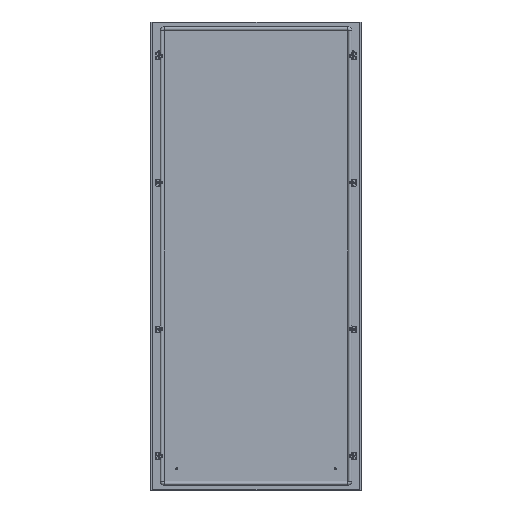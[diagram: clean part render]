
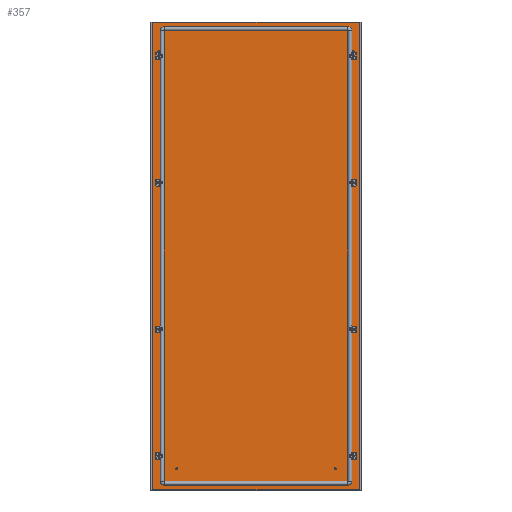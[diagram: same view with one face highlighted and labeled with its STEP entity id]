
A CAD part, top view. The second image highlights one B-rep face of the part: STEP entity #357.
In plain terms, the highlighted planar face has unit normal (0, 0, 1).
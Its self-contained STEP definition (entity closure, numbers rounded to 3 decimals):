
#357 = ADVANCED_FACE('',(#358,#456,#467,#478,#498,#518,#529,#540,#560),
  #580,.F.);
#358 = FACE_BOUND('',#359,.T.);
#359 = EDGE_LOOP('',(#360,#370,#378,#386,#394,#402,#410,#418,#426,#434,
    #442,#450));
#360 = ORIENTED_EDGE('',*,*,#361,.F.);
#361 = EDGE_CURVE('',#362,#364,#366,.T.);
#362 = VERTEX_POINT('',#363);
#363 = CARTESIAN_POINT('',(-395.5,877.5,0.));
#364 = VERTEX_POINT('',#365);
#365 = CARTESIAN_POINT('',(-395.3,877.5,0.));
#366 = LINE('',#367,#368);
#367 = CARTESIAN_POINT('',(0.,877.5,0.)
  );
#368 = VECTOR('',#369,1.);
#369 = DIRECTION('',(1.,0.,0.));
#370 = ORIENTED_EDGE('',*,*,#371,.T.);
#371 = EDGE_CURVE('',#362,#372,#374,.T.);
#372 = VERTEX_POINT('',#373);
#373 = CARTESIAN_POINT('',(-395.5,-877.5,0.));
#374 = LINE('',#375,#376);
#375 = CARTESIAN_POINT('',(-395.5,0.,0.
    ));
#376 = VECTOR('',#377,1.);
#377 = DIRECTION('',(0.,-1.,0.));
#378 = ORIENTED_EDGE('',*,*,#379,.T.);
#379 = EDGE_CURVE('',#372,#380,#382,.T.);
#380 = VERTEX_POINT('',#381);
#381 = CARTESIAN_POINT('',(-395.3,-877.5,0.));
#382 = LINE('',#383,#384);
#383 = CARTESIAN_POINT('',(0.,-877.5,
    0.));
#384 = VECTOR('',#385,1.);
#385 = DIRECTION('',(1.,-0.,-0.));
#386 = ORIENTED_EDGE('',*,*,#387,.F.);
#387 = EDGE_CURVE('',#388,#380,#390,.T.);
#388 = VERTEX_POINT('',#389);
#389 = CARTESIAN_POINT('',(-395.3,-876.,0.));
#390 = LINE('',#391,#392);
#391 = CARTESIAN_POINT('',(-395.3,0.,0.
    ));
#392 = VECTOR('',#393,1.);
#393 = DIRECTION('',(0.,-1.,0.));
#394 = ORIENTED_EDGE('',*,*,#395,.T.);
#395 = EDGE_CURVE('',#388,#396,#398,.T.);
#396 = VERTEX_POINT('',#397);
#397 = CARTESIAN_POINT('',(395.3,-876.,0.));
#398 = LINE('',#399,#400);
#399 = CARTESIAN_POINT('',(0.,-876.,0.)
  );
#400 = VECTOR('',#401,1.);
#401 = DIRECTION('',(1.,-0.,-0.));
#402 = ORIENTED_EDGE('',*,*,#403,.T.);
#403 = EDGE_CURVE('',#396,#404,#406,.T.);
#404 = VERTEX_POINT('',#405);
#405 = CARTESIAN_POINT('',(395.3,-877.5,0.));
#406 = LINE('',#407,#408);
#407 = CARTESIAN_POINT('',(395.3,-876.,0.));
#408 = VECTOR('',#409,1.);
#409 = DIRECTION('',(0.,-1.,0.));
#410 = ORIENTED_EDGE('',*,*,#411,.F.);
#411 = EDGE_CURVE('',#412,#404,#414,.T.);
#412 = VERTEX_POINT('',#413);
#413 = CARTESIAN_POINT('',(395.5,-877.5,0.));
#414 = LINE('',#415,#416);
#415 = CARTESIAN_POINT('',(0.,-877.5,0.
    ));
#416 = VECTOR('',#417,1.);
#417 = DIRECTION('',(-1.,0.,0.));
#418 = ORIENTED_EDGE('',*,*,#419,.T.);
#419 = EDGE_CURVE('',#412,#420,#422,.T.);
#420 = VERTEX_POINT('',#421);
#421 = CARTESIAN_POINT('',(395.5,877.5,0.));
#422 = LINE('',#423,#424);
#423 = CARTESIAN_POINT('',(395.5,0.,0.));
#424 = VECTOR('',#425,1.);
#425 = DIRECTION('',(0.,1.,0.));
#426 = ORIENTED_EDGE('',*,*,#427,.T.);
#427 = EDGE_CURVE('',#420,#428,#430,.T.);
#428 = VERTEX_POINT('',#429);
#429 = CARTESIAN_POINT('',(395.3,877.5,0.));
#430 = LINE('',#431,#432);
#431 = CARTESIAN_POINT('',(0.,877.5,0.)
  );
#432 = VECTOR('',#433,1.);
#433 = DIRECTION('',(-1.,-0.,-0.));
#434 = ORIENTED_EDGE('',*,*,#435,.F.);
#435 = EDGE_CURVE('',#436,#428,#438,.T.);
#436 = VERTEX_POINT('',#437);
#437 = CARTESIAN_POINT('',(395.3,876.,0.));
#438 = LINE('',#439,#440);
#439 = CARTESIAN_POINT('',(395.3,0.,
    0.));
#440 = VECTOR('',#441,1.);
#441 = DIRECTION('',(0.,1.,0.));
#442 = ORIENTED_EDGE('',*,*,#443,.T.);
#443 = EDGE_CURVE('',#436,#444,#446,.T.);
#444 = VERTEX_POINT('',#445);
#445 = CARTESIAN_POINT('',(-395.3,876.,0.));
#446 = LINE('',#447,#448);
#447 = CARTESIAN_POINT('',(0.,876.,0.)
  );
#448 = VECTOR('',#449,1.);
#449 = DIRECTION('',(-1.,-0.,-0.));
#450 = ORIENTED_EDGE('',*,*,#451,.T.);
#451 = EDGE_CURVE('',#444,#364,#452,.T.);
#452 = LINE('',#453,#454);
#453 = CARTESIAN_POINT('',(-395.3,876.,0.));
#454 = VECTOR('',#455,1.);
#455 = DIRECTION('',(0.,1.,0.));
#456 = FACE_BOUND('',#457,.T.);
#457 = EDGE_LOOP('',(#458));
#458 = ORIENTED_EDGE('',*,*,#459,.T.);
#459 = EDGE_CURVE('',#460,#460,#462,.T.);
#460 = VERTEX_POINT('',#461);
#461 = CARTESIAN_POINT('',(-364.5,-270.25,0.));
#462 = CIRCLE('',#463,4.75);
#463 = AXIS2_PLACEMENT_3D('',#464,#465,#466);
#464 = CARTESIAN_POINT('',(-364.5,-275.,0.));
#465 = DIRECTION('',(0.,0.,-1.));
#466 = DIRECTION('',(0.,1.,0.));
#467 = FACE_BOUND('',#468,.T.);
#468 = EDGE_LOOP('',(#469));
#469 = ORIENTED_EDGE('',*,*,#470,.T.);
#470 = EDGE_CURVE('',#471,#471,#473,.T.);
#471 = VERTEX_POINT('',#472);
#472 = CARTESIAN_POINT('',(364.5,-279.75,0.));
#473 = CIRCLE('',#474,4.75);
#474 = AXIS2_PLACEMENT_3D('',#475,#476,#477);
#475 = CARTESIAN_POINT('',(364.5,-275.,0.));
#476 = DIRECTION('',(-0.,0.,-1.));
#477 = DIRECTION('',(0.,-1.,0.));
#478 = FACE_BOUND('',#479,.T.);
#479 = EDGE_LOOP('',(#480,#491));
#480 = ORIENTED_EDGE('',*,*,#481,.F.);
#481 = EDGE_CURVE('',#482,#484,#486,.T.);
#482 = VERTEX_POINT('',#483);
#483 = CARTESIAN_POINT('',(-364.5,754.75,0.));
#484 = VERTEX_POINT('',#485);
#485 = CARTESIAN_POINT('',(-364.5,745.25,0.));
#486 = CIRCLE('',#487,4.75);
#487 = AXIS2_PLACEMENT_3D('',#488,#489,#490);
#488 = CARTESIAN_POINT('',(-364.5,750.,0.));
#489 = DIRECTION('',(0.,0.,1.));
#490 = DIRECTION('',(0.,1.,0.));
#491 = ORIENTED_EDGE('',*,*,#492,.F.);
#492 = EDGE_CURVE('',#484,#482,#493,.T.);
#493 = CIRCLE('',#494,4.75);
#494 = AXIS2_PLACEMENT_3D('',#495,#496,#497);
#495 = CARTESIAN_POINT('',(-364.5,750.,0.));
#496 = DIRECTION('',(0.,0.,1.));
#497 = DIRECTION('',(0.,1.,0.));
#498 = FACE_BOUND('',#499,.T.);
#499 = EDGE_LOOP('',(#500,#511));
#500 = ORIENTED_EDGE('',*,*,#501,.F.);
#501 = EDGE_CURVE('',#502,#504,#506,.T.);
#502 = VERTEX_POINT('',#503);
#503 = CARTESIAN_POINT('',(364.5,745.25,0.));
#504 = VERTEX_POINT('',#505);
#505 = CARTESIAN_POINT('',(364.5,754.75,0.));
#506 = CIRCLE('',#507,4.75);
#507 = AXIS2_PLACEMENT_3D('',#508,#509,#510);
#508 = CARTESIAN_POINT('',(364.5,750.,0.));
#509 = DIRECTION('',(0.,0.,1.));
#510 = DIRECTION('',(0.,-1.,0.));
#511 = ORIENTED_EDGE('',*,*,#512,.F.);
#512 = EDGE_CURVE('',#504,#502,#513,.T.);
#513 = CIRCLE('',#514,4.75);
#514 = AXIS2_PLACEMENT_3D('',#515,#516,#517);
#515 = CARTESIAN_POINT('',(364.5,750.,0.));
#516 = DIRECTION('',(0.,0.,1.));
#517 = DIRECTION('',(0.,-1.,0.));
#518 = FACE_BOUND('',#519,.T.);
#519 = EDGE_LOOP('',(#520));
#520 = ORIENTED_EDGE('',*,*,#521,.T.);
#521 = EDGE_CURVE('',#522,#522,#524,.T.);
#522 = VERTEX_POINT('',#523);
#523 = CARTESIAN_POINT('',(-364.5,-745.25,0.));
#524 = CIRCLE('',#525,4.75);
#525 = AXIS2_PLACEMENT_3D('',#526,#527,#528);
#526 = CARTESIAN_POINT('',(-364.5,-750.,0.));
#527 = DIRECTION('',(0.,0.,-1.));
#528 = DIRECTION('',(0.,1.,0.));
#529 = FACE_BOUND('',#530,.T.);
#530 = EDGE_LOOP('',(#531));
#531 = ORIENTED_EDGE('',*,*,#532,.T.);
#532 = EDGE_CURVE('',#533,#533,#535,.T.);
#533 = VERTEX_POINT('',#534);
#534 = CARTESIAN_POINT('',(364.5,-754.75,0.));
#535 = CIRCLE('',#536,4.75);
#536 = AXIS2_PLACEMENT_3D('',#537,#538,#539);
#537 = CARTESIAN_POINT('',(364.5,-750.,0.));
#538 = DIRECTION('',(-0.,0.,-1.));
#539 = DIRECTION('',(0.,-1.,0.));
#540 = FACE_BOUND('',#541,.T.);
#541 = EDGE_LOOP('',(#542,#553));
#542 = ORIENTED_EDGE('',*,*,#543,.F.);
#543 = EDGE_CURVE('',#544,#546,#548,.T.);
#544 = VERTEX_POINT('',#545);
#545 = CARTESIAN_POINT('',(364.5,270.25,0.));
#546 = VERTEX_POINT('',#547);
#547 = CARTESIAN_POINT('',(364.5,279.75,0.));
#548 = CIRCLE('',#549,4.75);
#549 = AXIS2_PLACEMENT_3D('',#550,#551,#552);
#550 = CARTESIAN_POINT('',(364.5,275.,0.));
#551 = DIRECTION('',(0.,0.,1.));
#552 = DIRECTION('',(0.,-1.,0.));
#553 = ORIENTED_EDGE('',*,*,#554,.F.);
#554 = EDGE_CURVE('',#546,#544,#555,.T.);
#555 = CIRCLE('',#556,4.75);
#556 = AXIS2_PLACEMENT_3D('',#557,#558,#559);
#557 = CARTESIAN_POINT('',(364.5,275.,0.));
#558 = DIRECTION('',(0.,0.,1.));
#559 = DIRECTION('',(0.,-1.,0.));
#560 = FACE_BOUND('',#561,.T.);
#561 = EDGE_LOOP('',(#562,#573));
#562 = ORIENTED_EDGE('',*,*,#563,.F.);
#563 = EDGE_CURVE('',#564,#566,#568,.T.);
#564 = VERTEX_POINT('',#565);
#565 = CARTESIAN_POINT('',(-364.5,279.75,0.));
#566 = VERTEX_POINT('',#567);
#567 = CARTESIAN_POINT('',(-364.5,270.25,0.));
#568 = CIRCLE('',#569,4.75);
#569 = AXIS2_PLACEMENT_3D('',#570,#571,#572);
#570 = CARTESIAN_POINT('',(-364.5,275.,0.));
#571 = DIRECTION('',(0.,0.,1.));
#572 = DIRECTION('',(0.,1.,0.));
#573 = ORIENTED_EDGE('',*,*,#574,.F.);
#574 = EDGE_CURVE('',#566,#564,#575,.T.);
#575 = CIRCLE('',#576,4.75);
#576 = AXIS2_PLACEMENT_3D('',#577,#578,#579);
#577 = CARTESIAN_POINT('',(-364.5,275.,0.));
#578 = DIRECTION('',(0.,0.,1.));
#579 = DIRECTION('',(0.,1.,0.));
#580 = PLANE('',#581);
#581 = AXIS2_PLACEMENT_3D('',#582,#583,#584);
#582 = CARTESIAN_POINT('',(0.,0.,
    0.));
#583 = DIRECTION('',(0.,0.,-1.));
#584 = DIRECTION('',(-1.,0.,0.));
